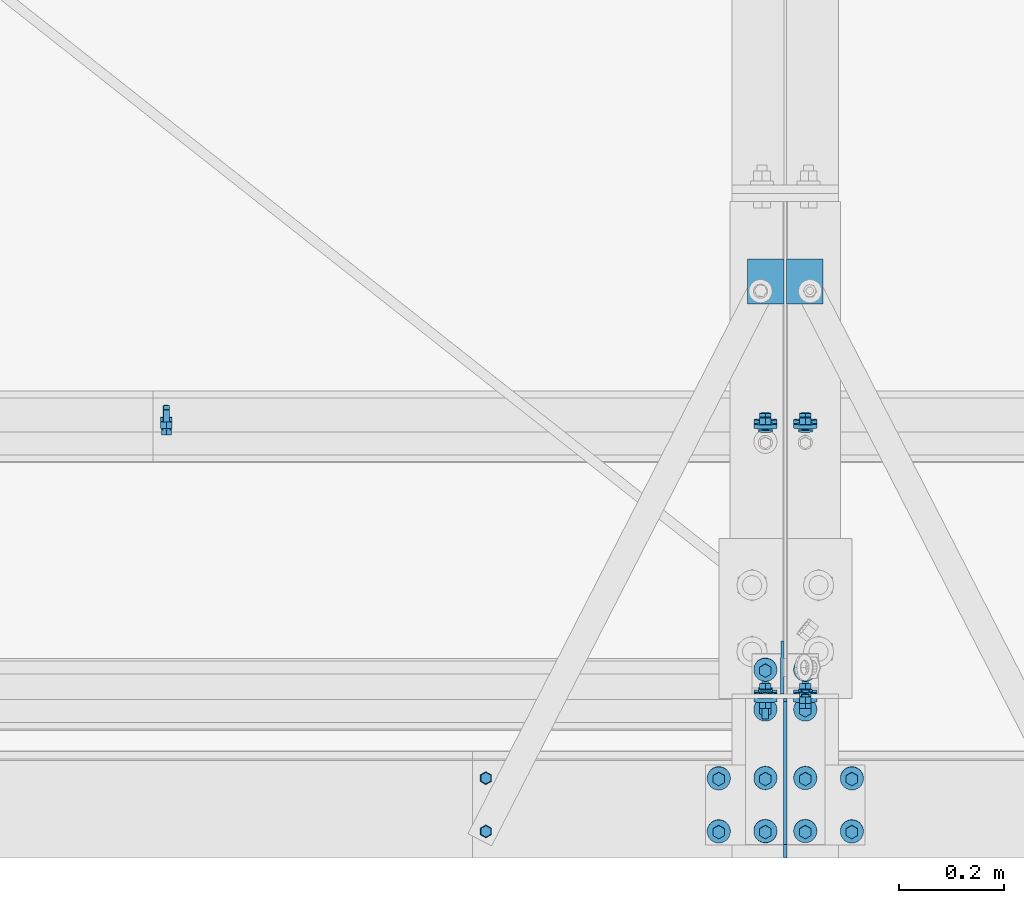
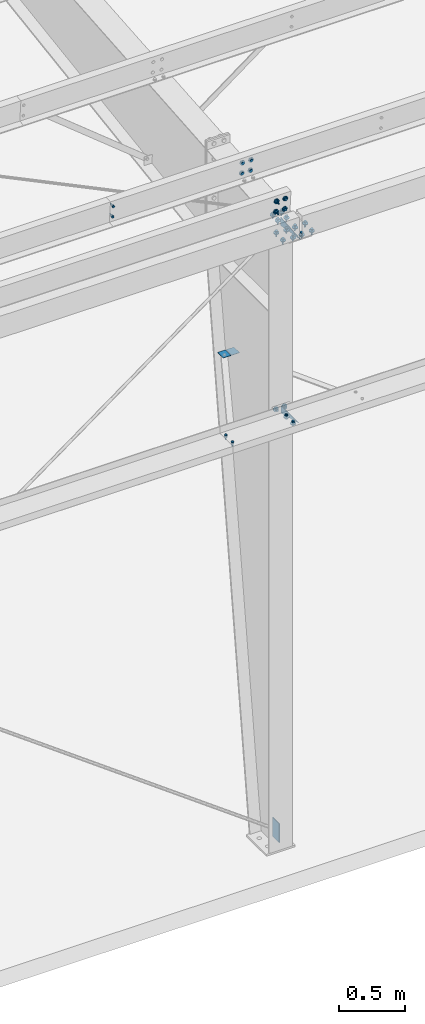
# One storey, part 101 of 185: 16 mechanical fasteners, 5 discrete accessories, 10 elements without a shape of their own.
"""IFC2X3 building model written with IfcOpenShell, lengths in millimetres."""

from ifc_helpers import new_model, si_unit, frame, origin_with_axes, origin_2d_with_axis, place, context, subcontext, project, spatial, polyline, rectangle, circle, outline, extrude, source, transform, mapped, material, type_object, element, aggregate, save


model = new_model("IFC2X3")

# Units and contexts
model_context = context("Model", 3, precision=1e-05, world=origin_with_axes())
body_context = subcontext(model_context, "Body", "Model", "MODEL_VIEW")
ifc_project = project(units=[si_unit("LENGTHUNIT", "METRE", prefix="MILLI"), si_unit("AREAUNIT", "SQUARE_METRE"), si_unit("VOLUMEUNIT", "CUBIC_METRE"), si_unit("MASSUNIT", "GRAM", prefix="KILO"), si_unit("TIMEUNIT", "SECOND"), si_unit("PLANEANGLEUNIT", "RADIAN"), si_unit("SOLIDANGLEUNIT", "STERADIAN"), si_unit("THERMODYNAMICTEMPERATUREUNIT", "DEGREE_CELSIUS"), si_unit("LUMINOUSINTENSITYUNIT", "LUMEN")], contexts=[model_context])

# Site, building, storey
site_placement = place(None, origin_with_axes())
site = spatial("IfcSite", under=ifc_project, at=site_placement, Name="Undefined", CompositionType="ELEMENT")
building_placement = place(site_placement, origin_with_axes())
building = spatial("IfcBuilding", under=site, at=building_placement, Name="Undefined", CompositionType="ELEMENT")
storey_placement = place(building_placement, origin_with_axes())
storey = spatial("IfcBuildingStorey", under=building, at=storey_placement, Name="Undefined", CompositionType="ELEMENT", Elevation=0.0)

# Assembly, mechanical fasteners
assembly_1_placement = place(storey_placement, origin_with_axes())
assembly_1 = element("IfcElementAssembly", 1, at=assembly_1_placement, inside=storey, Name="Steel Assembly", AssemblyPlace="NOTDEFINED", PredefinedType="RIGID_FRAME")
ifc_material_1 = material(Name="Undefined")
discrete_accessory_type_1 = type_object("IfcDiscreteAccessoryType", Name="Bolt assembly")
shared_shape_1 = source(origin_with_axes(), body_context, "Body", "SweptSolid", [
    extrude(circle(Radius=7.14374971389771, at=origin_2d_with_axis()), frame((0.0, -1.59000001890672, 0.0), z_axis=(0.0, 1.0, 0.0), x_axis=(1.0, 0.0, 0.0)), (0.0, 0.0, 1.0), 3.3),
    extrude(circle(Radius=13.4937496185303, at=origin_2d_with_axis()), frame((0.0, -5.5587500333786, 0.0), z_axis=(0.0, 1.0, 0.0), x_axis=(1.0, 0.0, 0.0)), (0.0, 0.0, 1.0), 4.0),
    extrude(circle(Radius=22.2250003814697, at=origin_2d_with_axis()), frame((0.0, 1.5900000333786, 0.0), z_axis=(0.0, 1.0, 0.0), x_axis=(1.0, 0.0, 0.0)), (0.0, 0.0, 1.0), 7.9),
    extrude(outline(polyline([(12.8316099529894, 0.0), (6.4158049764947, 11.1125001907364), (-6.4158049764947, 11.1125001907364), (-12.8316099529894, 0.0), (-6.4158049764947, -11.1125001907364), (6.4158049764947, -11.1125001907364), (12.8316099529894, 0.0)])), frame((0.0, 9.5275000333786, 0.0), z_axis=(0.0, 1.0, 0.0), x_axis=(1.0, 0.0, 0.0)), (0.0, 0.0, 1.0), 12.3),
])
mechanical_fastener_1_placement = place(assembly_1_placement, frame((37680.9, 307.870484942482, 6070.6797900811), z_axis=(-1.0, 0.0, 0.0), x_axis=(0.0, 0.0830454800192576, -0.996545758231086)))
mechanical_fastener_1 = element("IfcMechanicalFastener", 2, at=mechanical_fastener_1_placement, type_object=discrete_accessory_type_1, material=ifc_material_1, Name="Bolt assembly", NominalDiameter=12.6999998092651, NominalLength=38.0999984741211, context=body_context, shape_type="MappedRepresentation", body=[
    mapped(shared_shape_1, transform((0.0, 0.0, 0.0))),
    mapped(shared_shape_1, transform((101.599998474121, 0.0, 0.0))),
])
mechanical_fastener_2_placement = place(assembly_1_placement, frame((37757.1, 307.870484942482, 6070.6797900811), z_axis=(-1.0, 0.0, 0.0), x_axis=(0.0, 0.0830454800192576, -0.996545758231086)))
mechanical_fastener_2 = element("IfcMechanicalFastener", 3, at=mechanical_fastener_2_placement, type_object=discrete_accessory_type_1, material=ifc_material_1, Name="Bolt assembly", NominalDiameter=12.6999998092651, NominalLength=38.0999984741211, context=body_context, shape_type="MappedRepresentation", body=[
    mapped(shared_shape_1, transform((0.0, 0.0, 0.0))),
    mapped(shared_shape_1, transform((101.599998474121, 0.0, 0.0))),
])

# Assembly, mechanical fastener
assembly_2_placement = place(storey_placement, origin_with_axes())
assembly_2 = element("IfcElementAssembly", 4, at=assembly_2_placement, inside=storey, Name="Steel Assembly", AssemblyPlace="NOTDEFINED", PredefinedType="RIGID_FRAME")
mechanical_fastener_3_placement = place(assembly_2_placement, frame((37757.1, 818.861779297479, 6113.26239802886), z_axis=(1.0, 0.0, 0.0), x_axis=(0.0, 0.0830454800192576, -0.996545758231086)))
mechanical_fastener_3 = element("IfcMechanicalFastener", 5, at=mechanical_fastener_3_placement, type_object=discrete_accessory_type_1, material=ifc_material_1, Name="Bolt assembly", NominalDiameter=12.6999998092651, NominalLength=38.0999984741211, context=body_context, shape_type="MappedRepresentation", body=[
    mapped(shared_shape_1, transform((0.0, 0.0, 0.0))),
    mapped(shared_shape_1, transform((101.599998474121, 0.0, 0.0))),
])
aggregate(assembly_2, [mechanical_fastener_3])

assembly_3_placement = place(storey_placement, origin_with_axes())
assembly_3 = element("IfcElementAssembly", 6, at=assembly_3_placement, inside=storey, Name="Steel Assembly", AssemblyPlace="NOTDEFINED", PredefinedType="RIGID_FRAME")
mechanical_fastener_4_placement = place(assembly_3_placement, frame((37680.9, 818.861779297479, 6113.26239802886), z_axis=(1.0, 0.0, 0.0), x_axis=(0.0, 0.0830454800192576, -0.996545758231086)))
mechanical_fastener_4 = element("IfcMechanicalFastener", 7, at=mechanical_fastener_4_placement, type_object=discrete_accessory_type_1, material=ifc_material_1, Name="Bolt assembly", NominalDiameter=12.6999998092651, NominalLength=38.0999984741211, context=body_context, shape_type="MappedRepresentation", body=[
    mapped(shared_shape_1, transform((0.0, 0.0, 0.0))),
    mapped(shared_shape_1, transform((101.599998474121, 0.0, 0.0))),
])

# Assembly, discrete accessories
assembly_4_placement = place(storey_placement, origin_with_axes())
assembly_4 = element("IfcElementAssembly", 8, at=assembly_4_placement, inside=storey, Name="Steel Assembly", AssemblyPlace="NOTDEFINED", PredefinedType="RIGID_FRAME")
ifc_material_2 = material(Name="STEEL/55")
discrete_accessory_type_2 = type_object("IfcDiscreteAccessoryType", Name="FLANGE BRACE FLIP")
discrete_accessory_1_placement = place(assembly_4_placement, frame((37716.61875, 1100.12169218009, 4163.4569751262), z_axis=(0.0, -1.0, 0.0), x_axis=(-1.0, 0.0, 0.0)))
discrete_accessory_1 = element("IfcDiscreteAccessory", 9, at=discrete_accessory_1_placement, type_object=discrete_accessory_type_2, material=ifc_material_2, Name="FLANGE BRACE FLIP", ObjectType="PL1/8\"X2 3/4\"", context=body_context, shape_type="SweptSolid", body=[
    extrude(rectangle(XDim=3.416, YDim=85.725, at=origin_2d_with_axis()), frame((69.8499999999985, 0.0, 0.0), z_axis=(-1.0, 0.0, 0.0), x_axis=(0.0, -1.0, 0.0)), (0.0, 0.0, 1.0), 69.8),
])
discrete_accessory_2_placement = place(assembly_4_placement, frame((37721.38125, 1100.12169218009, 4163.4569751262), z_axis=(0.0, -1.0, 0.0), x_axis=(1.0, 0.0, 0.0)))
discrete_accessory_2 = element("IfcDiscreteAccessory", 10, at=discrete_accessory_2_placement, type_object=discrete_accessory_type_2, material=ifc_material_2, Name="FLANGE BRACE FLIP", ObjectType="PL1/8\"X2 3/4\"", context=body_context, shape_type="SweptSolid", body=[
    extrude(rectangle(XDim=3.416, YDim=85.725, at=origin_2d_with_axis()), frame((69.8499999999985, 0.0, 0.0), z_axis=(-1.0, 0.0, 0.0), x_axis=(0.0, -1.0, 0.0)), (0.0, 0.0, 1.0), 69.8),
])
discrete_accessory_type_3 = type_object("IfcDiscreteAccessoryType", Name="BACKUP PL SINGLE SLOT")
discrete_accessory_3_placement = place(assembly_4_placement, frame((37713.4437512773, 363.476847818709, 256.515722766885), z_axis=(-0.000896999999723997, -0.999999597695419, 0.0), x_axis=(0.0, 0.0, -1.0)))
discrete_accessory_3 = element("IfcDiscreteAccessory", 11, at=discrete_accessory_3_placement, type_object=discrete_accessory_type_3, material=ifc_material_2, Name="BACKUP PL SINGLE SLOT", ObjectType="FL1/4\"X4\"", context=body_context, shape_type="SweptSolid", body=[
    extrude(rectangle(XDim=6.35, YDim=101.6, at=origin_2d_with_axis()), frame((177.800000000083, 0.0, 0.0), z_axis=(-1.0, 0.0, 0.0), x_axis=(0.0, -1.0, 0.0)), (0.0, 0.0, 1.0), 177.8),
])

# Assembly, discrete accessory, mechanical fasteners
assembly_5_placement = place(storey_placement, origin_with_axes())
assembly_5 = element("IfcElementAssembly", 12, at=assembly_5_placement, inside=storey, Name="Steel Assembly", AssemblyPlace="NOTDEFINED", PredefinedType="RIGID_FRAME")
discrete_accessory_type_4 = type_object("IfcDiscreteAccessoryType", Name="Gusett")
discrete_accessory_4_placement = place(assembly_5_placement, frame((37719.0, 298.449999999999, 4089.4), z_axis=(1.0, 0.0, 0.0), x_axis=(0.0, 0.0, 1.0)))
discrete_accessory_4 = element("IfcDiscreteAccessory", 13, at=discrete_accessory_4_placement, type_object=discrete_accessory_type_4, material=ifc_material_2, Name="Gusett", ObjectType="FL1/4\"X2 3/4\"", context=body_context, shape_type="SweptSolid", body=[
    extrude(outline(polyline([(0.0, 0.0), (69.8499984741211, 0.0), (69.8499984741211, 273.049987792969), (0.0, 0.0)])), frame((0.0, -9.09494701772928e-13, -3.2), z_axis=(0.0, 0.0, 1.0), x_axis=(1.0, 0.0, 0.0)), (0.0, 0.0, 1.0), 6.4),
])
shared_shape_2 = source(origin_with_axes(), body_context, "Body", "SweptSolid", [
    extrude(circle(Radius=7.14374971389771, at=origin_2d_with_axis()), frame((0.0, -0.1, 0.0), z_axis=(0.0, 1.0, 0.0), x_axis=(1.0, 0.0, 0.0)), (0.0, 0.0, 1.0), 8.0),
    extrude(circle(Radius=7.14374971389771, at=origin_2d_with_axis()), frame((0.0, -6.24999999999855, 0.0), z_axis=(0.0, 1.0, 0.0), x_axis=(1.0, 0.0, 0.0)), (0.0, 0.0, 1.0), 6.4),
    extrude(outline(polyline([(10.9985221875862, 0.0), (5.4992610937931, 9.52499961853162), (-5.4992610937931, 9.52499961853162), (-10.9985221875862, 0.0), (-5.4992610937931, -9.52499961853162), (5.4992610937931, -9.52499961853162), (10.9985221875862, 0.0)])), frame((0.0, -15.8750000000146, 0.0), z_axis=(0.0, 1.0, 0.0), x_axis=(1.0, 0.0, 0.0)), (0.0, 0.0, 1.0), 9.5),
    extrude(circle(Radius=6.34999990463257, at=origin_2d_with_axis()), frame((0.0, -6.34999953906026, 0.0), z_axis=(0.0, 1.0, 0.0), x_axis=(1.0, 0.0, 0.0)), (0.0, 0.0, 1.0), 38.1),
    extrude(circle(Radius=22.2250003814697, at=origin_2d_with_axis()), frame((0.0, 7.87399999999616, 0.0), z_axis=(0.0, 1.0, 0.0), x_axis=(1.0, 0.0, 0.0)), (0.0, 0.0, 1.0), 7.9),
    extrude(outline(polyline([(12.8316099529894, 0.0), (6.4158049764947, 11.1125001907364), (-6.4158049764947, 11.1125001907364), (-12.8316099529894, 0.0), (-6.4158049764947, -11.1125001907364), (6.4158049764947, -11.1125001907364), (12.8316099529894, 0.0)])), frame((0.0, 15.8114999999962, 0.0), z_axis=(0.0, 1.0, 0.0), x_axis=(1.0, 0.0, 0.0)), (0.0, 0.0, 1.0), 12.3),
])
mechanical_fastener_5_placement = place(assembly_5_placement, frame((37719.0, 304.8, 4127.5), z_axis=(1.0, 0.0, 0.0), x_axis=(0.0, 0.0, -1.0)))
mechanical_fastener_5 = element("IfcMechanicalFastener", 14, at=mechanical_fastener_5_placement, type_object=discrete_accessory_type_1, material=ifc_material_1, Name="Bolt assembly", NominalDiameter=12.6999998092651, NominalLength=38.0999984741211, context=body_context, shape_type="MappedRepresentation", body=[
    mapped(shared_shape_2, transform((0.0, 0.0, -38.0999984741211))),
    mapped(shared_shape_2, transform((0.0, 0.0, 38.0999984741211))),
])
shared_shape_3 = source(origin_with_axes(), body_context, "Body", "SweptSolid", [
    extrude(circle(Radius=7.14374971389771, at=origin_2d_with_axis()), frame((0.0, -1.4900000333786, 0.0), z_axis=(0.0, 1.0, 0.0), x_axis=(1.0, 0.0, 0.0)), (0.0, 0.0, 1.0), 3.2),
    extrude(circle(Radius=7.14374971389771, at=origin_2d_with_axis()), frame((0.0, -0.1, 0.0), z_axis=(0.0, 1.0, 0.0), x_axis=(1.0, 0.0, 0.0)), (0.0, 0.0, 1.0), 6.5),
    extrude(circle(Radius=7.14374971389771, at=origin_2d_with_axis()), frame((0.0, -1.4900000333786, 0.0), z_axis=(0.0, 1.0, 0.0), x_axis=(1.0, 0.0, 0.0)), (0.0, 0.0, 1.0), 3.2),
    extrude(outline(polyline([(10.9985221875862, 0.0), (5.4992610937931, 9.52499961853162), (-5.4992610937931, 9.52499961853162), (-10.9985221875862, 0.0), (-5.4992610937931, -9.52499961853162), (5.4992610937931, -9.52499961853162), (10.9985221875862, 0.0)])), frame((0.0, -15.0837496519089, 0.0), z_axis=(0.0, 1.0, 0.0), x_axis=(1.0, 0.0, 0.0)), (0.0, 0.0, 1.0), 9.5),
    extrude(circle(Radius=6.34999990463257, at=origin_2d_with_axis()), frame((0.0, -5.5587500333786, 0.0), z_axis=(0.0, 1.0, 0.0), x_axis=(1.0, 0.0, 0.0)), (0.0, 0.0, 1.0), 38.1),
    extrude(circle(Radius=13.4937496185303, at=origin_2d_with_axis()), frame((0.0, -5.5587500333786, 0.0), z_axis=(0.0, 1.0, 0.0), x_axis=(1.0, 0.0, 0.0)), (0.0, 0.0, 1.0), 4.0),
    extrude(circle(Radius=22.2250003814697, at=origin_2d_with_axis()), frame((0.0, 6.35000000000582, 0.0), z_axis=(0.0, 1.0, 0.0), x_axis=(1.0, 0.0, 0.0)), (0.0, 0.0, 1.0), 7.9),
    extrude(outline(polyline([(12.8316099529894, 0.0), (6.4158049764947, 11.1125001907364), (-6.4158049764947, 11.1125001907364), (-12.8316099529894, 0.0), (-6.4158049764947, -11.1125001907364), (6.4158049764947, -11.1125001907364), (12.8316099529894, 0.0)])), frame((0.0, 14.2875000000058, 0.0), z_axis=(0.0, 1.0, 0.0), x_axis=(1.0, 0.0, 0.0)), (0.0, 0.0, 1.0), 12.3),
])
mechanical_fastener_6_placement = place(assembly_5_placement, frame((37680.9, 50.7999992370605, 4165.6), z_axis=(-1.0, 0.0, 0.0), x_axis=(0.0, 1.0, 0.0)))
mechanical_fastener_6 = element("IfcMechanicalFastener", 15, at=mechanical_fastener_6_placement, type_object=discrete_accessory_type_1, material=ifc_material_1, Name="Bolt assembly", NominalDiameter=12.6999998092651, NominalLength=38.0999984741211, context=body_context, shape_type="MappedRepresentation", body=[
    mapped(shared_shape_3, transform((0.0, 0.0, 0.0))),
    mapped(shared_shape_3, transform((101.599998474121, 0.0, 0.0))),
])
aggregate(assembly_5, [mechanical_fastener_5, mechanical_fastener_6, discrete_accessory_4])

# Assembly, mechanical fastener
assembly_6_placement = place(storey_placement, origin_with_axes())
assembly_6 = element("IfcElementAssembly", 16, at=assembly_6_placement, inside=storey, Name="Steel Assembly", AssemblyPlace="NOTDEFINED", PredefinedType="RIGID_FRAME")
shared_shape_4 = source(origin_with_axes(), body_context, "Body", "SweptSolid", [
    extrude(circle(Radius=7.14374971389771, at=origin_2d_with_axis()), frame((0.0, -1.4900000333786, 0.0), z_axis=(0.0, 1.0, 0.0), x_axis=(1.0, 0.0, 0.0)), (0.0, 0.0, 1.0), 3.2),
    extrude(circle(Radius=7.14374971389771, at=origin_2d_with_axis()), frame((0.0, -1.4900000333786, 0.0), z_axis=(0.0, 1.0, 0.0), x_axis=(1.0, 0.0, 0.0)), (0.0, 0.0, 1.0), 3.2),
    extrude(outline(polyline([(10.9985221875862, 0.0), (5.4992610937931, 9.52499961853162), (-5.4992610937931, 9.52499961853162), (-10.9985221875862, 0.0), (-5.4992610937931, -9.52499961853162), (5.4992610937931, -9.52499961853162), (10.9985221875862, 0.0)])), frame((0.0, -11.1149996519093, 0.0), z_axis=(0.0, 1.0, 0.0), x_axis=(1.0, 0.0, 0.0)), (0.0, 0.0, 1.0), 9.5),
    extrude(circle(Radius=6.34999990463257, at=origin_2d_with_axis()), frame((0.0, -1.59000001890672, 0.0), z_axis=(0.0, 1.0, 0.0), x_axis=(1.0, 0.0, 0.0)), (0.0, 0.0, 1.0), 38.1),
    extrude(outline(polyline([(12.8316099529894, 0.0), (6.4158049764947, 11.1125001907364), (-6.4158049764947, 11.1125001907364), (-12.8316099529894, 0.0), (-6.4158049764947, -11.1125001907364), (6.4158049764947, -11.1125001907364), (12.8316099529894, 0.0)])), frame((0.0, 1.5900000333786, 0.0), z_axis=(0.0, 1.0, 0.0), x_axis=(1.0, 0.0, 0.0)), (0.0, 0.0, 1.0), 12.3),
])
mechanical_fastener_7_placement = place(assembly_6_placement, frame((37147.5, 50.8, 4165.6), z_axis=(-1.0, 0.0, 0.0), x_axis=(0.0, 1.0, 0.0)))
mechanical_fastener_7 = element("IfcMechanicalFastener", 17, at=mechanical_fastener_7_placement, type_object=discrete_accessory_type_1, material=ifc_material_1, Name="Bolt assembly", NominalDiameter=12.6999998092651, NominalLength=38.0999984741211, context=body_context, shape_type="MappedRepresentation", body=[
    mapped(shared_shape_4, transform((0.0, 0.0, 0.0))),
    mapped(shared_shape_4, transform((101.599998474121, 0.0, 0.0))),
])
aggregate(assembly_6, [mechanical_fastener_7])

# Mechanical fastener
mechanical_fastener_8_placement = place(assembly_3_placement, frame((36537.9, 818.861779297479, 6113.26239802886), z_axis=(1.0, 0.0, 0.0), x_axis=(0.0, 0.0830454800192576, -0.996545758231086)))
mechanical_fastener_8 = element("IfcMechanicalFastener", 18, at=mechanical_fastener_8_placement, type_object=discrete_accessory_type_1, material=ifc_material_1, Name="Bolt assembly", NominalDiameter=12.6999998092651, NominalLength=38.0999984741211, context=body_context, shape_type="MappedRepresentation", body=[
    mapped(shared_shape_4, transform((0.0, 0.0, 0.0))),
    mapped(shared_shape_4, transform((101.599998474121, 0.0, 0.0))),
])

aggregate(assembly_3, [mechanical_fastener_4, mechanical_fastener_8])

# Discrete accessory
discrete_accessory_type_5 = type_object("IfcDiscreteAccessoryType", Name="Gusset")
discrete_accessory_5_placement = place(assembly_4_placement, frame((37719.0, 304.8, 5909.51790803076), z_axis=(1.0, 0.0, 0.0), x_axis=(0.0, -0.996548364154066, -0.0830142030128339)))
discrete_accessory_5 = element("IfcDiscreteAccessory", 19, at=discrete_accessory_5_placement, type_object=discrete_accessory_type_5, material=ifc_material_2, Name="Gusset", ObjectType="1/4\"X2 15/16\"", context=body_context, shape_type="SweptSolid", body=[
    extrude(outline(polyline([(0.0, 0.0), (305.244781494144, -7.45785655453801e-11), (6.32568216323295, 75.9369888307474), (0.0, 0.0)])), frame((0.0, -9.09494701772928e-13, -3.2), z_axis=(0.0, 0.0, 1.0), x_axis=(1.0, 0.0, 0.0)), (0.0, 0.0, 1.0), 6.4),
])

# Mechanical fastener
shared_shape_5 = source(origin_with_axes(), body_context, "Body", "SweptSolid", [
    extrude(circle(Radius=7.14374971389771, at=origin_2d_with_axis()), frame((0.0, -0.1, 0.0), z_axis=(0.0, 1.0, 0.0), x_axis=(1.0, 0.0, 0.0)), (0.0, 0.0, 1.0), 8.1),
    extrude(circle(Radius=7.14374971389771, at=origin_2d_with_axis()), frame((0.0, -3.08000006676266, 0.0), z_axis=(0.0, 1.0, 0.0), x_axis=(1.0, 0.0, 0.0)), (0.0, 0.0, 1.0), 3.2),
    extrude(outline(polyline([(12.8316099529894, 0.0), (6.4158049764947, 11.1125001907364), (-6.4158049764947, 11.1125001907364), (-12.8316099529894, 0.0), (-6.4158049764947, -11.1125001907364), (6.4158049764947, -11.1125001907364), (12.8316099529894, 0.0)])), frame((0.0, -11.1175003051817, 0.0), z_axis=(0.0, 1.0, 0.0), x_axis=(1.0, 0.0, 0.0)), (0.0, 0.0, 1.0), 7.9),
    extrude(circle(Radius=6.34999990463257, at=origin_2d_with_axis()), frame((0.0, -3.18000030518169, 0.0), z_axis=(0.0, 1.0, 0.0), x_axis=(1.0, 0.0, 0.0)), (0.0, 0.0, 1.0), 50.8),
    extrude(circle(Radius=22.2250003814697, at=origin_2d_with_axis()), frame((0.0, 7.95019856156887, 0.0), z_axis=(0.0, 1.0, 0.0), x_axis=(1.0, 0.0, 0.0)), (0.0, 0.0, 1.0), 7.9),
    extrude(outline(polyline([(12.8316099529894, 0.0), (6.4158049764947, 11.1125001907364), (-6.4158049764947, 11.1125001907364), (-12.8316099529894, 0.0), (-6.4158049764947, -11.1125001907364), (6.4158049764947, -11.1125001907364), (12.8316099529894, 0.0)])), frame((0.0, 15.8876985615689, 0.0), z_axis=(0.0, 1.0, 0.0), x_axis=(1.0, 0.0, 0.0)), (0.0, 0.0, 1.0), 12.3),
])
mechanical_fastener_9_placement = place(assembly_1_placement, frame((37719.0, 282.558222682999, 5915.64218374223), z_axis=(1.0, 0.0, 0.0), x_axis=(0.0, -0.996545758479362, -0.0830454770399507)))
mechanical_fastener_9 = element("IfcMechanicalFastener", 20, at=mechanical_fastener_9_placement, type_object=discrete_accessory_type_1, material=ifc_material_1, Name="Bolt assembly", NominalDiameter=12.6999998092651, NominalLength=50.7999992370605, context=body_context, shape_type="MappedRepresentation", body=[
    mapped(shared_shape_5, transform((0.0, 0.0, -38.0999984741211))),
    mapped(shared_shape_5, transform((0.0, 0.0, 38.0999984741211))),
])

aggregate(assembly_1, [mechanical_fastener_1, mechanical_fastener_2, mechanical_fastener_9])

shared_shape_6 = source(origin_with_axes(), body_context, "Body", "SweptSolid", [
    extrude(circle(Radius=7.14374971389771, at=origin_2d_with_axis()), frame((0.0, -4.65999985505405, 0.0), z_axis=(0.0, 1.0, 0.0), x_axis=(1.0, 0.0, 0.0)), (0.0, 0.0, 1.0), 4.8),
    extrude(circle(Radius=7.14374971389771, at=origin_2d_with_axis()), frame((0.0, -0.1, 0.0), z_axis=(0.0, 1.0, 0.0), x_axis=(1.0, 0.0, 0.0)), (0.0, 0.0, 1.0), 8.1),
    extrude(outline(polyline([(12.8316099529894, 0.0), (6.4158049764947, 11.1125001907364), (-6.4158049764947, 11.1125001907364), (-12.8316099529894, 0.0), (-6.4158049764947, -11.1125001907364), (6.4158049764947, -11.1125001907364), (12.8316099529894, 0.0)])), frame((0.0, -12.697499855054, 0.0), z_axis=(0.0, 1.0, 0.0), x_axis=(1.0, 0.0, 0.0)), (0.0, 0.0, 1.0), 7.9),
    extrude(circle(Radius=6.34999990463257, at=origin_2d_with_axis()), frame((0.0, -4.75999985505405, 0.0), z_axis=(0.0, 1.0, 0.0), x_axis=(1.0, 0.0, 0.0)), (0.0, 0.0, 1.0), 50.8),
    extrude(circle(Radius=22.2250003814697, at=origin_2d_with_axis()), frame((0.0, 7.95019856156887, 0.0), z_axis=(0.0, 1.0, 0.0), x_axis=(1.0, 0.0, 0.0)), (0.0, 0.0, 1.0), 7.9),
    extrude(outline(polyline([(12.8316099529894, 0.0), (6.4158049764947, 11.1125001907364), (-6.4158049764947, 11.1125001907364), (-12.8316099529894, 0.0), (-6.4158049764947, -11.1125001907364), (6.4158049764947, -11.1125001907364), (12.8316099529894, 0.0)])), frame((0.0, 15.8876985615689, 0.0), z_axis=(0.0, 1.0, 0.0), x_axis=(1.0, 0.0, 0.0)), (0.0, 0.0, 1.0), 12.3),
])
mechanical_fastener_10_placement = place(assembly_4_placement, frame((37719.0, 358.495009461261, 5921.97024930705), z_axis=(-1.0, 0.0, 0.0), x_axis=(0.0, 0.996545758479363, 0.0830454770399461)))
mechanical_fastener_10 = element("IfcMechanicalFastener", 21, at=mechanical_fastener_10_placement, type_object=discrete_accessory_type_1, material=ifc_material_1, Name="Bolt assembly", NominalDiameter=12.6999998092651, NominalLength=50.7999992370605, context=body_context, shape_type="MappedRepresentation", body=[
    mapped(shared_shape_6, transform((0.0, 0.0, -38.0999984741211))),
    mapped(shared_shape_6, transform((0.0, 0.0, 38.0999984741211))),
])

aggregate(assembly_4, [discrete_accessory_3, discrete_accessory_1, discrete_accessory_2, discrete_accessory_5, mechanical_fastener_10])

# Assembly, mechanical fasteners
assembly_7_placement = place(storey_placement, origin_with_axes())
assembly_7 = element("IfcElementAssembly", 22, at=assembly_7_placement, inside=storey, Name="Steel Assembly", AssemblyPlace="NOTDEFINED", PredefinedType="RIGID_FRAME")
shared_shape_7 = source(origin_with_axes(), body_context, "Body", "SweptSolid", [
    extrude(circle(Radius=7.14374971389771, at=origin_2d_with_axis()), frame((0.0, -4.75999985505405, 0.0), z_axis=(0.0, 1.0, 0.0), x_axis=(1.0, 0.0, 0.0)), (0.0, 0.0, 1.0), 4.9),
    extrude(outline(polyline([(12.8316099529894, 0.0), (6.4158049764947, 11.1125001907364), (-6.4158049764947, 11.1125001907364), (-12.8316099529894, 0.0), (-6.4158049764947, -11.1125001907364), (6.4158049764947, -11.1125001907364), (12.8316099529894, 0.0)])), frame((0.0, 0.0, 0.0), z_axis=(0.0, 1.0, 0.0), x_axis=(1.0, 0.0, 0.0)), (0.0, 0.0, 1.0), 12.3),
])
mechanical_fastener_11_placement = place(assembly_7_placement, frame((37757.1, 307.870484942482, 6070.6797900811), z_axis=(-1.0, 0.0, 0.0), x_axis=(0.0, 0.0830454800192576, -0.996545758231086)))
mechanical_fastener_11 = element("IfcMechanicalFastener", 23, at=mechanical_fastener_11_placement, type_object=discrete_accessory_type_1, material=ifc_material_1, Name="Bolt assembly", NominalDiameter=12.6999998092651, NominalLength=50.7999992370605, context=body_context, shape_type="MappedRepresentation", body=[
    mapped(shared_shape_7, transform((0.0, 0.0, 0.0))),
    mapped(shared_shape_7, transform((101.599998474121, 0.0, 0.0))),
])
shared_shape_8 = source(origin_with_axes(), body_context, "Body", "SweptSolid", [
    extrude(circle(Radius=7.14374971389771, at=origin_2d_with_axis()), frame((0.0, -4.75999985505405, 0.0), z_axis=(0.0, 1.0, 0.0), x_axis=(1.0, 0.0, 0.0)), (0.0, 0.0, 1.0), 4.9),
    extrude(outline(polyline([(12.8316099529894, 0.0), (6.4158049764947, 11.1125001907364), (-6.4158049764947, 11.1125001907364), (-12.8316099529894, 0.0), (-6.4158049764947, -11.1125001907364), (6.4158049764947, -11.1125001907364), (12.8316099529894, 0.0)])), frame((0.0, -16.6662538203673, 0.0), z_axis=(0.0, 1.0, 0.0), x_axis=(1.0, 0.0, 0.0)), (0.0, 0.0, 1.0), 7.9),
    extrude(circle(Radius=6.34999990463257, at=origin_2d_with_axis()), frame((0.0, -8.72875382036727, 0.0), z_axis=(0.0, 1.0, 0.0), x_axis=(1.0, 0.0, 0.0)), (0.0, 0.0, 1.0), 50.8),
    extrude(circle(Radius=13.4937496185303, at=origin_2d_with_axis()), frame((0.0, -8.72875382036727, 0.0), z_axis=(0.0, 1.0, 0.0), x_axis=(1.0, 0.0, 0.0)), (0.0, 0.0, 1.0), 4.0),
    extrude(circle(Radius=22.2250003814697, at=origin_2d_with_axis()), frame((0.0, 0.0, 0.0), z_axis=(0.0, 1.0, 0.0), x_axis=(1.0, 0.0, 0.0)), (0.0, 0.0, 1.0), 7.9),
    extrude(outline(polyline([(12.8316099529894, 0.0), (6.4158049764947, 11.1125001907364), (-6.4158049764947, 11.1125001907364), (-12.8316099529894, 0.0), (-6.4158049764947, -11.1125001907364), (6.4158049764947, -11.1125001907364), (12.8316099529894, 0.0)])), frame((0.0, 7.93750000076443, 0.0), z_axis=(0.0, 1.0, 0.0), x_axis=(1.0, 0.0, 0.0)), (0.0, 0.0, 1.0), 12.3),
])
mechanical_fastener_12_placement = place(assembly_7_placement, frame((37680.9, 307.870484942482, 6070.6797900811), z_axis=(-1.0, 0.0, 0.0), x_axis=(0.0, 0.0830454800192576, -0.996545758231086)))
mechanical_fastener_12 = element("IfcMechanicalFastener", 24, at=mechanical_fastener_12_placement, type_object=discrete_accessory_type_1, material=ifc_material_1, Name="Bolt assembly", NominalDiameter=12.6999998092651, NominalLength=50.7999992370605, context=body_context, shape_type="MappedRepresentation", body=[
    mapped(shared_shape_8, transform((0.0, 0.0, 0.0))),
    mapped(shared_shape_8, transform((101.599998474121, 0.0, 0.0))),
])
aggregate(assembly_7, [mechanical_fastener_11, mechanical_fastener_12])

assembly_8_placement = place(storey_placement, origin_with_axes())
assembly_8 = element("IfcElementAssembly", 25, at=assembly_8_placement, inside=storey, Name="Steel Assembly", AssemblyPlace="NOTDEFINED", PredefinedType="RIGID_FRAME")
shared_shape_9 = source(origin_with_axes(), body_context, "Body", "SweptSolid", [
    extrude(circle(Radius=7.14499998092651, at=origin_2d_with_axis()), frame((0.0, -7.8375000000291, 0.0), z_axis=(0.0, 1.0, 0.0), x_axis=(1.0, 0.0, 0.0)), (0.0, 0.0, 1.0), 6.4),
    extrude(circle(Radius=7.14499998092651, at=origin_2d_with_axis()), frame((0.0, -1.58749999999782, 0.0), z_axis=(0.0, 1.0, 0.0), x_axis=(1.0, 0.0, 0.0)), (0.0, 0.0, 1.0), 1.6),
    extrude(circle(Radius=7.14499998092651, at=origin_2d_with_axis()), frame((0.0, -0.1, 0.0), z_axis=(0.0, 1.0, 0.0), x_axis=(1.0, 0.0, 0.0)), (0.0, 0.0, 1.0), 8.1),
    extrude(outline(polyline([(12.8316099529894, 0.0), (6.4158049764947, 11.1125001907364), (-6.4158049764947, 11.1125001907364), (-12.8316099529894, 0.0), (-6.4158049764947, -11.1125001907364), (6.4158049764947, -11.1125001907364), (12.8316099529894, 0.0)])), frame((0.0, -15.8750000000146, 0.0), z_axis=(0.0, 1.0, 0.0), x_axis=(1.0, 0.0, 0.0)), (0.0, 0.0, 1.0), 7.9),
    extrude(circle(Radius=6.34999990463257, at=origin_2d_with_axis()), frame((0.0, -7.93749389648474, 0.0), z_axis=(0.0, 1.0, 0.0), x_axis=(1.0, 0.0, 0.0)), (0.0, 0.0, 1.0), 50.8),
    extrude(circle(Radius=22.2250003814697, at=origin_2d_with_axis()), frame((0.0, 7.95019856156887, 0.0), z_axis=(0.0, 1.0, 0.0), x_axis=(1.0, 0.0, 0.0)), (0.0, 0.0, 1.0), 7.9),
    extrude(outline(polyline([(12.8316099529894, 0.0), (6.4158049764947, 11.1125001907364), (-6.4158049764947, 11.1125001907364), (-12.8316099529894, 0.0), (-6.4158049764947, -11.1125001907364), (6.4158049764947, -11.1125001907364), (12.8316099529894, 0.0)])), frame((0.0, 15.8876985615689, 0.0), z_axis=(0.0, 1.0, 0.0), x_axis=(1.0, 0.0, 0.0)), (0.0, 0.0, 1.0), 12.3),
])
mechanical_fastener_13_placement = place(assembly_8_placement, frame((37680.9, 50.6245237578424, 5896.31437545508), z_axis=(-1.0, 0.0, 0.0), x_axis=(0.0, 0.996545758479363, 0.0830454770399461)))
mechanical_fastener_13 = element("IfcMechanicalFastener", 26, at=mechanical_fastener_13_placement, type_object=discrete_accessory_type_1, material=ifc_material_1, Name="Bolt assembly", NominalDiameter=12.6999998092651, NominalLength=50.7999992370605, context=body_context, shape_type="MappedRepresentation", body=[
    mapped(shared_shape_9, transform((0.0, 0.0, 0.0))),
    mapped(shared_shape_9, transform((101.599998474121, 0.0, 0.0))),
])
shared_shape_10 = source(origin_with_axes(), body_context, "Body", "SweptSolid", [
    extrude(circle(Radius=7.14499998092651, at=origin_2d_with_axis()), frame((0.0, -7.8375000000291, 0.0), z_axis=(0.0, 1.0, 0.0), x_axis=(1.0, 0.0, 0.0)), (0.0, 0.0, 1.0), 6.4),
    extrude(circle(Radius=7.14499998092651, at=origin_2d_with_axis()), frame((0.0, -1.68750355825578, 0.0), z_axis=(0.0, 1.0, 0.0), x_axis=(1.0, 0.0, 0.0)), (0.0, 0.0, 1.0), 1.7),
    extrude(outline(polyline([(12.8316099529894, 0.0), (6.4158049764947, 11.1125001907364), (-6.4158049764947, 11.1125001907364), (-12.8316099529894, 0.0), (-6.4158049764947, -11.1125001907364), (6.4158049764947, -11.1125001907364), (12.8316099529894, 0.0)])), frame((0.0, -15.8750000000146, 0.0), z_axis=(0.0, 1.0, 0.0), x_axis=(1.0, 0.0, 0.0)), (0.0, 0.0, 1.0), 7.9),
    extrude(circle(Radius=6.34999990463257, at=origin_2d_with_axis()), frame((0.0, -7.93749389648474, 0.0), z_axis=(0.0, 1.0, 0.0), x_axis=(1.0, 0.0, 0.0)), (0.0, 0.0, 1.0), 50.8),
    extrude(circle(Radius=22.2250003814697, at=origin_2d_with_axis()), frame((0.0, 0.0, 0.0), z_axis=(0.0, 1.0, 0.0), x_axis=(1.0, 0.0, 0.0)), (0.0, 0.0, 1.0), 7.9),
    extrude(outline(polyline([(12.8316099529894, 0.0), (6.4158049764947, 11.1125001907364), (-6.4158049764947, 11.1125001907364), (-12.8316099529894, 0.0), (-6.4158049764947, -11.1125001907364), (6.4158049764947, -11.1125001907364), (12.8316099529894, 0.0)])), frame((0.0, 7.93750000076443, 0.0), z_axis=(0.0, 1.0, 0.0), x_axis=(1.0, 0.0, 0.0)), (0.0, 0.0, 1.0), 12.3),
])
mechanical_fastener_14_placement = place(assembly_8_placement, frame((37592.0, 50.6245237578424, 5896.31437545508), z_axis=(-1.0, 0.0, 0.0), x_axis=(0.0, 0.996545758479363, 0.0830454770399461)))
mechanical_fastener_14 = element("IfcMechanicalFastener", 27, at=mechanical_fastener_14_placement, type_object=discrete_accessory_type_1, material=ifc_material_1, Name="Bolt assembly", NominalDiameter=12.6999998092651, NominalLength=50.7999992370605, context=body_context, shape_type="MappedRepresentation", body=[
    mapped(shared_shape_10, transform((0.0, 0.0, 0.0))),
    mapped(shared_shape_10, transform((101.599998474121, 0.0, 0.0))),
])
aggregate(assembly_8, [mechanical_fastener_13, mechanical_fastener_14])

# Assembly, mechanical fastener
assembly_9_placement = place(storey_placement, origin_with_axes())
assembly_9 = element("IfcElementAssembly", 28, at=assembly_9_placement, inside=storey, Name="Steel Assembly", AssemblyPlace="NOTDEFINED", PredefinedType="RIGID_FRAME")
shared_shape_11 = source(origin_with_axes(), body_context, "Body", "SweptSolid", [
    extrude(circle(Radius=7.14374971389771, at=origin_2d_with_axis()), frame((0.0, -7.8375000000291, 0.0), z_axis=(0.0, 1.0, 0.0), x_axis=(1.0, 0.0, 0.0)), (0.0, 0.0, 1.0), 6.4),
    extrude(circle(Radius=7.14374971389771, at=origin_2d_with_axis()), frame((0.0, -1.68750355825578, 0.0), z_axis=(0.0, 1.0, 0.0), x_axis=(1.0, 0.0, 0.0)), (0.0, 0.0, 1.0), 1.7),
    extrude(outline(polyline([(12.8316099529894, 0.0), (6.4158049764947, 11.1125001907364), (-6.4158049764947, 11.1125001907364), (-12.8316099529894, 0.0), (-6.4158049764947, -11.1125001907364), (6.4158049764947, -11.1125001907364), (12.8316099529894, 0.0)])), frame((0.0, -15.8750000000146, 0.0), z_axis=(0.0, 1.0, 0.0), x_axis=(1.0, 0.0, 0.0)), (0.0, 0.0, 1.0), 7.9),
    extrude(circle(Radius=6.34999990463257, at=origin_2d_with_axis()), frame((0.0, -7.93749389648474, 0.0), z_axis=(0.0, 1.0, 0.0), x_axis=(1.0, 0.0, 0.0)), (0.0, 0.0, 1.0), 50.8),
    extrude(circle(Radius=22.2250003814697, at=origin_2d_with_axis()), frame((0.0, 0.0, 0.0), z_axis=(0.0, 1.0, 0.0), x_axis=(1.0, 0.0, 0.0)), (0.0, 0.0, 1.0), 7.9),
    extrude(outline(polyline([(12.8316099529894, 0.0), (6.4158049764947, 11.1125001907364), (-6.4158049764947, 11.1125001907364), (-12.8316099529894, 0.0), (-6.4158049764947, -11.1125001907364), (6.4158049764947, -11.1125001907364), (12.8316099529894, 0.0)])), frame((0.0, 7.93750000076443, 0.0), z_axis=(0.0, 1.0, 0.0), x_axis=(1.0, 0.0, 0.0)), (0.0, 0.0, 1.0), 12.3),
])
mechanical_fastener_15_placement = place(assembly_9_placement, frame((37846.0, 50.6245237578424, 5896.31437545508), z_axis=(-1.0, 0.0, 0.0), x_axis=(0.0, 0.996545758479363, 0.0830454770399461)))
mechanical_fastener_15 = element("IfcMechanicalFastener", 29, at=mechanical_fastener_15_placement, type_object=discrete_accessory_type_1, material=ifc_material_1, Name="Bolt assembly", NominalDiameter=12.6999998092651, NominalLength=50.7999992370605, context=body_context, shape_type="MappedRepresentation", body=[
    mapped(shared_shape_11, transform((0.0, 0.0, 0.0))),
    mapped(shared_shape_11, transform((101.599998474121, 0.0, 0.0))),
])
aggregate(assembly_9, [mechanical_fastener_15])

assembly_10_placement = place(storey_placement, origin_with_axes())
assembly_10 = element("IfcElementAssembly", 30, at=assembly_10_placement, inside=storey, Name="Steel Assembly", AssemblyPlace="NOTDEFINED", PredefinedType="RIGID_FRAME")
shared_shape_12 = source(origin_with_axes(), body_context, "Body", "SweptSolid", [
    extrude(circle(Radius=7.14499998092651, at=origin_2d_with_axis()), frame((0.0, -1.58749999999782, 0.0), z_axis=(0.0, 1.0, 0.0), x_axis=(1.0, 0.0, 0.0)), (0.0, 0.0, 1.0), 1.6),
    extrude(circle(Radius=7.14499998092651, at=origin_2d_with_axis()), frame((0.0, -7.8375000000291, 0.0), z_axis=(0.0, 1.0, 0.0), x_axis=(1.0, 0.0, 0.0)), (0.0, 0.0, 1.0), 6.4),
    extrude(circle(Radius=7.14499998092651, at=origin_2d_with_axis()), frame((0.0, -0.1, 0.0), z_axis=(0.0, 1.0, 0.0), x_axis=(1.0, 0.0, 0.0)), (0.0, 0.0, 1.0), 8.1),
    extrude(outline(polyline([(12.8316099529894, 0.0), (6.4158049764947, 11.1125001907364), (-6.4158049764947, 11.1125001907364), (-12.8316099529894, 0.0), (-6.4158049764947, -11.1125001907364), (6.4158049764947, -11.1125001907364), (12.8316099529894, 0.0)])), frame((0.0, -15.8750000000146, 0.0), z_axis=(0.0, 1.0, 0.0), x_axis=(1.0, 0.0, 0.0)), (0.0, 0.0, 1.0), 7.9),
    extrude(circle(Radius=6.34999990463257, at=origin_2d_with_axis()), frame((0.0, -7.93749389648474, 0.0), z_axis=(0.0, 1.0, 0.0), x_axis=(1.0, 0.0, 0.0)), (0.0, 0.0, 1.0), 50.8),
    extrude(circle(Radius=22.2250003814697, at=origin_2d_with_axis()), frame((0.0, 7.95019856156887, 0.0), z_axis=(0.0, 1.0, 0.0), x_axis=(1.0, 0.0, 0.0)), (0.0, 0.0, 1.0), 7.9),
    extrude(outline(polyline([(12.8316099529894, 0.0), (6.4158049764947, 11.1125001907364), (-6.4158049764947, 11.1125001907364), (-12.8316099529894, 0.0), (-6.4158049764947, -11.1125001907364), (6.4158049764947, -11.1125001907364), (12.8316099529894, 0.0)])), frame((0.0, 15.8876985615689, 0.0), z_axis=(0.0, 1.0, 0.0), x_axis=(1.0, 0.0, 0.0)), (0.0, 0.0, 1.0), 12.3),
])
mechanical_fastener_16_placement = place(assembly_10_placement, frame((37757.1, 50.6245237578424, 5896.31437545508), z_axis=(-1.0, 0.0, 0.0), x_axis=(0.0, 0.996545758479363, 0.0830454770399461)))
mechanical_fastener_16 = element("IfcMechanicalFastener", 31, at=mechanical_fastener_16_placement, type_object=discrete_accessory_type_1, material=ifc_material_1, Name="Bolt assembly", NominalDiameter=12.6999998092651, NominalLength=50.7999992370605, context=body_context, shape_type="MappedRepresentation", body=[
    mapped(shared_shape_12, transform((0.0, 0.0, 0.0))),
    mapped(shared_shape_12, transform((101.599998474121, 0.0, 0.0))),
])
aggregate(assembly_10, [mechanical_fastener_16])

save(model, "model.ifc")
